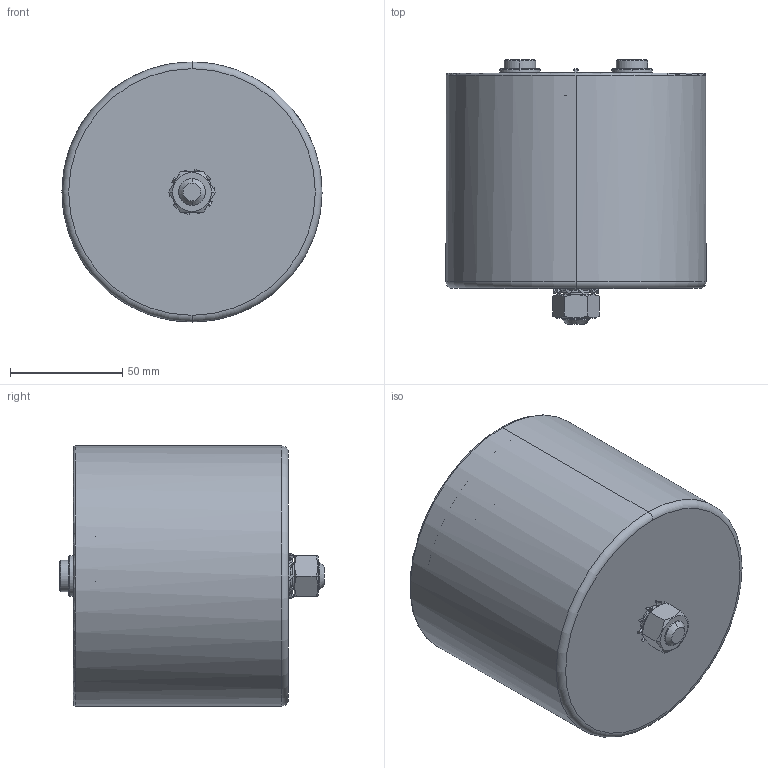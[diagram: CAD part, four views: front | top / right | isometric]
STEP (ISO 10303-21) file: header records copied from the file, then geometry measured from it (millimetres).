
FILE_DESCRIPTION (( 'STEP AP214' ), '1' );
FILE_NAME ('B25695 Series D116 Hc96 Ht102.STEP', '2024-06-04T08:38:33', ( '' ), ( '' ), 'SwSTEP 2.0', 'SolidWorks 2019', '' );
FILE_SCHEMA (( 'AUTOMOTIVE_DESIGN' ));
Length unit declared in the file: millimetre
Products named in the file (1): B25695 Series D116 Hc96 Ht102
Bounding box: 116 x 118 x 116 mm (x, y, z)
Volume: 138302.8 mm3; surface area: 130588.3 mm2
Topology: 1 solids, 2 shells, 371 faces, 1009 edges, 645 vertices
Faces by surface type: plane 137, cylinder 124, cone 50, bspline 40, torus 16, sphere 4
Entity records: 12572 total; most frequent: CARTESIAN_POINT 3598, ORIENTED_EDGE 2002, DIRECTION 1734, EDGE_CURVE 1001, AXIS2_PLACEMENT_3D 647, VERTEX_POINT 645, VECTOR 440, LINE 440
